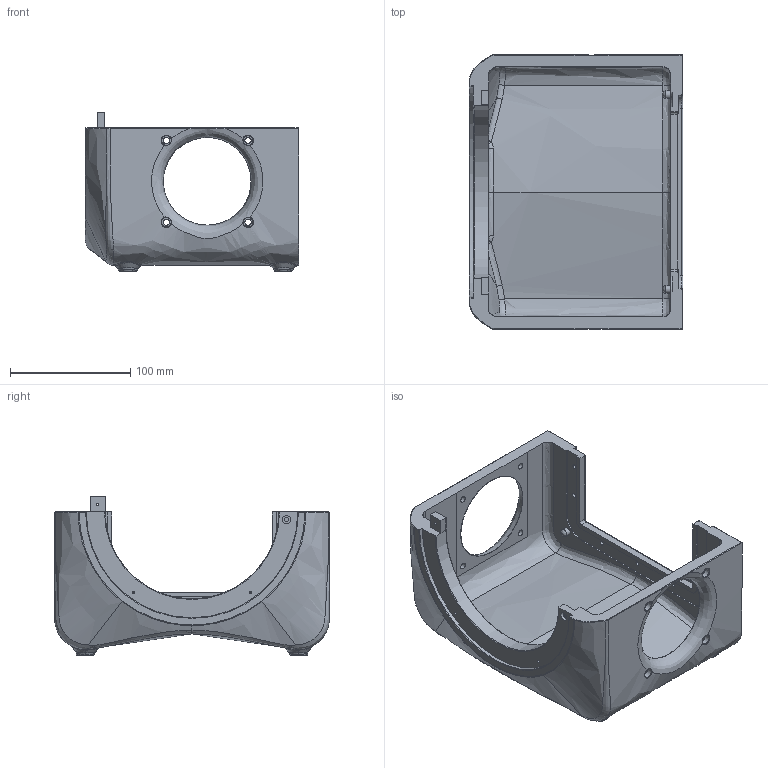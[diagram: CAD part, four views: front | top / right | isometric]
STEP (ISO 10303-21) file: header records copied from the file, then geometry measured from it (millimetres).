
FILE_DESCRIPTION(/* description */ (''),/* implementation_level */ '2;1');
FILE_NAME(/* name */ 'TB 4-Pack Enclosure- Bottom.step',/* time_stamp */ '2026-01-13T13:08:35-05:00',/* author */ (''),/* organization */ (''),/* preprocessor_version */ 'ST-DEVELOPER v20.1',/* originating_system */ 'Autodesk Translation Framework v14.21.0.0',/* authorisation */ '');
FILE_SCHEMA (('AUTOMOTIVE_DESIGN { 1 0 10303 214 3 1 1 }'));
Products named in the file (1): MicroSub Tang Band Buyouts and SA25
Bounding box: 177.8 x 228.6 x 132.08 mm (x, y, z)
Volume: 871544.6 mm3; surface area: 190938.3 mm2
Topology: 1 solids, 1 shells, 704 faces, 1857 edges, 1223 vertices
Faces by surface type: bspline 450, plane 190, cylinder 53, torus 9, cone 2
Full cylindrical faces by diameter (mm): 2.184 x3, 3.556 x7, 5.207 x8, 6.35 x2, 6.858 x3, 8.001 x8, 73.025 x2
Entity records: 46355 total; most frequent: CARTESIAN_POINT 32225, ORIENTED_EDGE 3702, EDGE_CURVE 1851, DIRECTION 1437, VERTEX_POINT 1223, B_SPLINE_CURVE_WITH_KNOTS 1088, EDGE_LOOP 818, FACE_OUTER_BOUND 704
